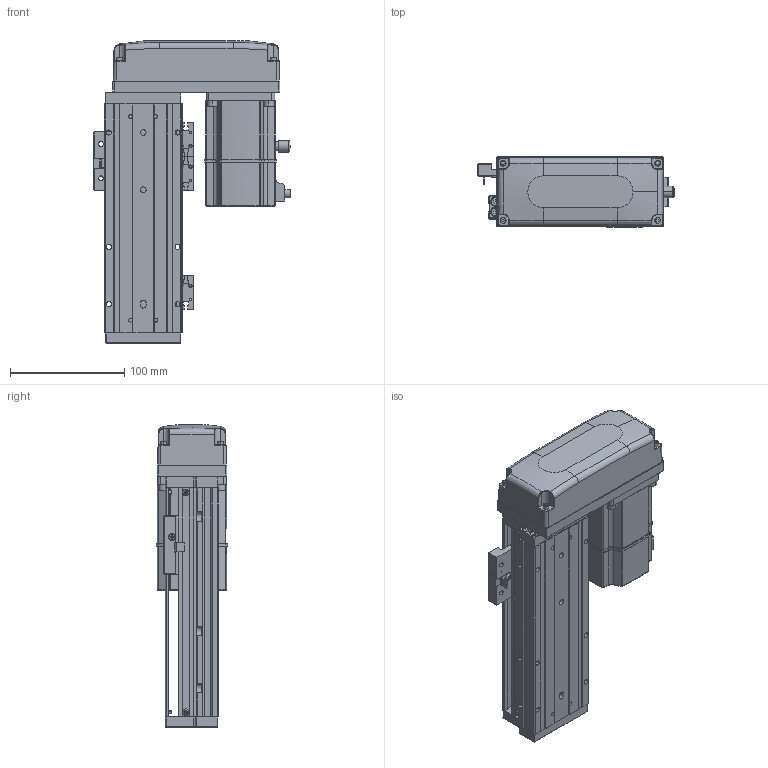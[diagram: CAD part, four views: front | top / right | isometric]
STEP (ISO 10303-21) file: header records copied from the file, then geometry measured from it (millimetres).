
FILE_DESCRIPTION (( 'STEP AP203' ), '1' );
FILE_NAME ('KTHA60-100-BL-M20-C4L.step', '2022-12-16T01:31:20', ( '微软用户' ), ( '微软中国' ), 'SwSTEP 2.0', 'SolidWorks 2020', '' );
FILE_SCHEMA (( 'CONFIG_CONTROL_DESIGN' ));
Length unit declared in the file: millimetre
Products named in the file (17): _X2_4E0983F1_X0_200W_1; KTHA60-005; GBT77-2000M3-3; KTHA60-100-BL-M20-C4L; GB¨uT 70.2-M3¡Á5_M3¡Á6; GBT 70.1-M3℅6; GBT 70.3-M3℅6; CTHA60-016; EE_SX911P_R; KTHA60-002; CTHA60-017; BTH80-026; KTHA60-001_200; CTHA60-021; CTHA60-006-2_CTHA60-006-2; KTHA60-004; GBT 70.1-M4×16
Assembly tree (51 placements, depth 2):
  KTHA60-100-BL-M20-C4L
    KTHA60-001_200
    KTHA60-004
    KTHA60-005
    GB¨uT 70.2-M3¡Á5_M3¡Á6  x6
    GBT 70.3-M3℅6  x4
    EE_SX911P_R  x3
    CTHA60-017  x3
    CTHA60-021  x2
    GBT 70.1-M4×16  x8
    GBT77-2000M3-3  x6
    GBT 70.1-M3℅6  x10
    CTHA60-016  x2
    KTHA60-002
    BTH80-026
    CTHA60-006-2_CTHA60-006-2
    _X2_4E0983F1_X0_200W_1
Bounding box: 172.1 x 62.42 x 264 mm (x, y, z)
Volume: 871866 mm3; surface area: 229686.5 mm2
Topology: 54 solids, 54 shells, 2368 faces, 5605 edges, 3442 vertices
Faces by surface type: plane 1249, cylinder 626, cone 276, bspline 109, torus 92, sphere 16
Entity records: 42948 total; most frequent: CARTESIAN_POINT 10146, DIRECTION 6258, ORIENTED_EDGE 6258, EDGE_CURVE 3129, AXIS2_PLACEMENT_3D 2173, VERTEX_POINT 1951, VECTOR 1912, LINE 1912
